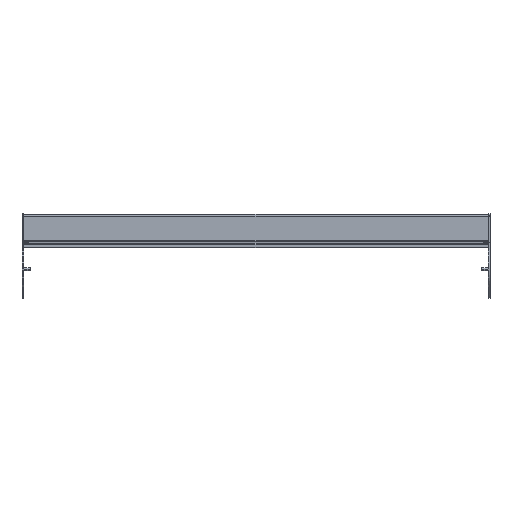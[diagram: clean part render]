
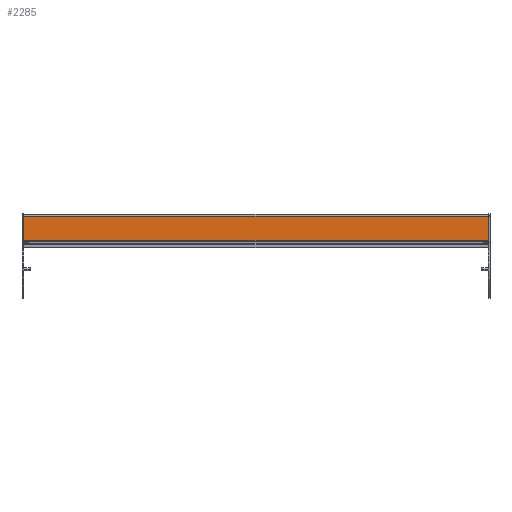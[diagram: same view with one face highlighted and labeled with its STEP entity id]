
A CAD part, top view. The second image highlights one B-rep face of the part: STEP entity #2285.
In plain terms, the highlighted planar face has unit normal (0, 0, 1) as drawn and (1, 0, 0) by its records, which use the part's own axes.
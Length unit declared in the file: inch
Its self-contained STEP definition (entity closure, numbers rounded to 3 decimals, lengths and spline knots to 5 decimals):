
#197=DIRECTION('',(0.,1.,0.));
#198=VECTOR('',#197,1.81445);
#199=CARTESIAN_POINT('',(0.683,-0.84545,-17.118));
#200=LINE('',#199,#198);
#303=DIRECTION('',(0.,1.,0.));
#304=VECTOR('',#303,1.81445);
#305=CARTESIAN_POINT('',(0.683,-0.84545,17.118));
#306=LINE('',#305,#304);
#646=DIRECTION('',(0.,0.,1.));
#647=VECTOR('',#646,34.236);
#648=CARTESIAN_POINT('',(0.683,0.969,-17.118));
#649=LINE('',#648,#647);
#659=DIRECTION('',(0.,0.,-1.));
#660=VECTOR('',#659,34.236);
#661=CARTESIAN_POINT('',(0.683,-0.84545,17.118));
#662=LINE('',#661,#660);
#1270=CARTESIAN_POINT('',(0.683,-0.84545,-17.118));
#1271=CARTESIAN_POINT('',(0.683,0.969,-17.118));
#1272=VERTEX_POINT('',#1270);
#1273=VERTEX_POINT('',#1271);
#1274=CARTESIAN_POINT('',(0.683,-0.84545,17.118));
#1275=CARTESIAN_POINT('',(0.683,0.969,17.118));
#1276=VERTEX_POINT('',#1274);
#1277=VERTEX_POINT('',#1275);
#2273=CARTESIAN_POINT('',(0.683,-0.86334,-17.118));
#2274=DIRECTION('',(1.,0.,0.));
#2275=DIRECTION('',(0.,1.,0.));
#2276=AXIS2_PLACEMENT_3D('',#2273,#2274,#2275);
#2277=PLANE('',#2276);
#2278=ORIENTED_EDGE('',*,*,#1631,.F.);
#2280=ORIENTED_EDGE('',*,*,#2279,.F.);
#2281=ORIENTED_EDGE('',*,*,#1734,.T.);
#2282=ORIENTED_EDGE('',*,*,#2266,.F.);
#2283=EDGE_LOOP('',(#2278,#2280,#2281,#2282));
#2284=FACE_OUTER_BOUND('',#2283,.F.);
#1631=EDGE_CURVE('',#1272,#1273,#200,.T.);
#1734=EDGE_CURVE('',#1276,#1277,#306,.T.);
#2266=EDGE_CURVE('',#1273,#1277,#649,.T.);
#2279=EDGE_CURVE('',#1276,#1272,#662,.T.);
#2285=ADVANCED_FACE('',(#2284),#2277,.T.);
